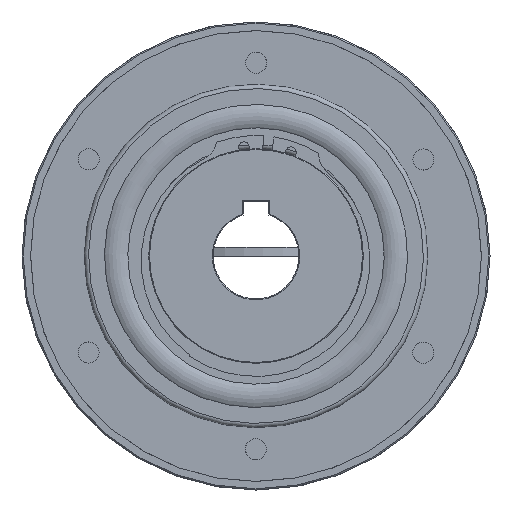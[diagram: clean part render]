
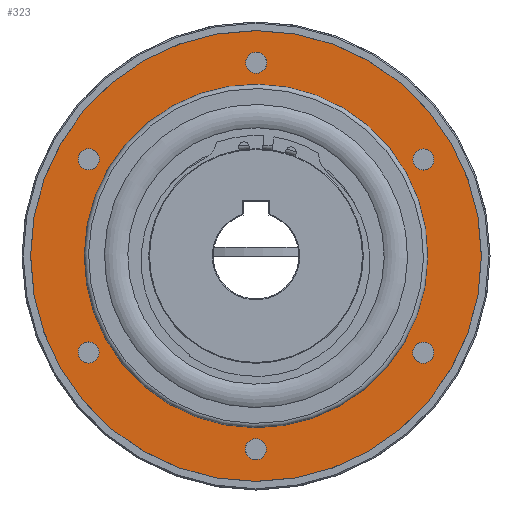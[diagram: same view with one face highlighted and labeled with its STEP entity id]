
A CAD part, left-side view. The second image highlights one B-rep face of the part: STEP entity #323.
In plain terms, the highlighted planar face has unit normal (-1, 0, 0).
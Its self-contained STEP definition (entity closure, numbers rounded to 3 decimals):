
#323 = ADVANCED_FACE( '', ( #605, #606, #607, #608, #609, #610, #611, #612 ), #613, .F. );
#605 = FACE_OUTER_BOUND( '', #938, .T. );
#606 = FACE_BOUND( '', #939, .T. );
#607 = FACE_BOUND( '', #940, .T. );
#608 = FACE_BOUND( '', #941, .T. );
#609 = FACE_BOUND( '', #942, .T. );
#610 = FACE_BOUND( '', #943, .T. );
#611 = FACE_BOUND( '', #944, .T. );
#612 = FACE_BOUND( '', #945, .T. );
#613 = PLANE( '', #946 );
#938 = EDGE_LOOP( '', ( #1481 ) );
#939 = EDGE_LOOP( '', ( #1482 ) );
#940 = EDGE_LOOP( '', ( #1483 ) );
#941 = EDGE_LOOP( '', ( #1484 ) );
#942 = EDGE_LOOP( '', ( #1485 ) );
#943 = EDGE_LOOP( '', ( #1486 ) );
#944 = EDGE_LOOP( '', ( #1487 ) );
#945 = EDGE_LOOP( '', ( #1488 ) );
#946 = AXIS2_PLACEMENT_3D( '', #1489, #1490, #1491 );
#1481 = ORIENTED_EDGE( '', *, *, #1794, .T. );
#1482 = ORIENTED_EDGE( '', *, *, #1795, .T. );
#1483 = ORIENTED_EDGE( '', *, *, #1796, .T. );
#1484 = ORIENTED_EDGE( '', *, *, #1797, .T. );
#1485 = ORIENTED_EDGE( '', *, *, #1798, .T. );
#1486 = ORIENTED_EDGE( '', *, *, #1799, .T. );
#1487 = ORIENTED_EDGE( '', *, *, #1800, .T. );
#1488 = ORIENTED_EDGE( '', *, *, #1801, .F. );
#1489 = CARTESIAN_POINT( '', ( -19.8, 52.5, 0. ) );
#1490 = DIRECTION( '', ( 1., 0., 0. ) );
#1491 = DIRECTION( '', ( 0., 1., 0. ) );
#1794 = EDGE_CURVE( '', #2043, #2043, #2044, .T. );
#1795 = EDGE_CURVE( '', #2045, #2045, #2046, .T. );
#1796 = EDGE_CURVE( '', #2047, #2047, #2048, .T. );
#1797 = EDGE_CURVE( '', #2049, #2049, #2050, .T. );
#1798 = EDGE_CURVE( '', #2051, #2051, #2052, .T. );
#1799 = EDGE_CURVE( '', #2053, #2053, #2054, .T. );
#1800 = EDGE_CURVE( '', #2055, #2055, #2056, .T. );
#1801 = EDGE_CURVE( '', #2057, #2057, #2058, .T. );
#2043 = VERTEX_POINT( '', #2691 );
#2044 = CIRCLE( '', #2692, 52.5 );
#2045 = VERTEX_POINT( '', #2693 );
#2046 = CIRCLE( '', #2694, 2.459 );
#2047 = VERTEX_POINT( '', #2695 );
#2048 = CIRCLE( '', #2696, 2.459 );
#2049 = VERTEX_POINT( '', #2697 );
#2050 = CIRCLE( '', #2698, 2.459 );
#2051 = VERTEX_POINT( '', #2699 );
#2052 = CIRCLE( '', #2700, 2.459 );
#2053 = VERTEX_POINT( '', #2701 );
#2054 = CIRCLE( '', #2702, 2.459 );
#2055 = VERTEX_POINT( '', #2703 );
#2056 = CIRCLE( '', #2704, 2.459 );
#2057 = VERTEX_POINT( '', #2705 );
#2058 = CIRCLE( '', #2706, 40. );
#2691 = CARTESIAN_POINT( '', ( -19.8, 0., 52.5 ) );
#2692 = AXIS2_PLACEMENT_3D( '', #3056, #3057, #3058 );
#2693 = CARTESIAN_POINT( '', ( -19.8, 41.1, 23.729 ) );
#2694 = AXIS2_PLACEMENT_3D( '', #3059, #3060, #3061 );
#2695 = CARTESIAN_POINT( '', ( -19.8, 41.1, -23.729 ) );
#2696 = AXIS2_PLACEMENT_3D( '', #3062, #3063, #3064 );
#2697 = CARTESIAN_POINT( '', ( -19.8, 0., -47.459 ) );
#2698 = AXIS2_PLACEMENT_3D( '', #3065, #3066, #3067 );
#2699 = CARTESIAN_POINT( '', ( -19.8, -41.1, -23.729 ) );
#2700 = AXIS2_PLACEMENT_3D( '', #3068, #3069, #3070 );
#2701 = CARTESIAN_POINT( '', ( -19.8, -41.1, 23.729 ) );
#2702 = AXIS2_PLACEMENT_3D( '', #3071, #3072, #3073 );
#2703 = CARTESIAN_POINT( '', ( -19.8, 0., 47.459 ) );
#2704 = AXIS2_PLACEMENT_3D( '', #3074, #3075, #3076 );
#2705 = CARTESIAN_POINT( '', ( -19.8, 0., 40. ) );
#2706 = AXIS2_PLACEMENT_3D( '', #3077, #3078, #3079 );
#3056 = CARTESIAN_POINT( '', ( -19.8, 0., 0. ) );
#3057 = DIRECTION( '', ( -1., 0., 0. ) );
#3058 = DIRECTION( '', ( 0., 0., 1. ) );
#3059 = CARTESIAN_POINT( '', ( -19.8, 38.971, 22.5 ) );
#3060 = DIRECTION( '', ( 1., 0., 0. ) );
#3061 = DIRECTION( '', ( 0., 0.866, 0.5 ) );
#3062 = CARTESIAN_POINT( '', ( -19.8, 38.971, -22.5 ) );
#3063 = DIRECTION( '', ( 1., 0., 0. ) );
#3064 = DIRECTION( '', ( 0., 0.866, -0.5 ) );
#3065 = CARTESIAN_POINT( '', ( -19.8, 0., -45. ) );
#3066 = DIRECTION( '', ( 1., 0., 0. ) );
#3067 = DIRECTION( '', ( 0., 0., -1. ) );
#3068 = CARTESIAN_POINT( '', ( -19.8, -38.971, -22.5 ) );
#3069 = DIRECTION( '', ( 1., 0., 0. ) );
#3070 = DIRECTION( '', ( 0., -0.866, -0.5 ) );
#3071 = CARTESIAN_POINT( '', ( -19.8, -38.971, 22.5 ) );
#3072 = DIRECTION( '', ( 1., 0., 0. ) );
#3073 = DIRECTION( '', ( 0., -0.866, 0.5 ) );
#3074 = CARTESIAN_POINT( '', ( -19.8, 0., 45. ) );
#3075 = DIRECTION( '', ( 1., 0., 0. ) );
#3076 = DIRECTION( '', ( 0., 0., 1. ) );
#3077 = CARTESIAN_POINT( '', ( -19.8, 0., 0. ) );
#3078 = DIRECTION( '', ( -1., 0., 0. ) );
#3079 = DIRECTION( '', ( 0., 0., 1. ) );
